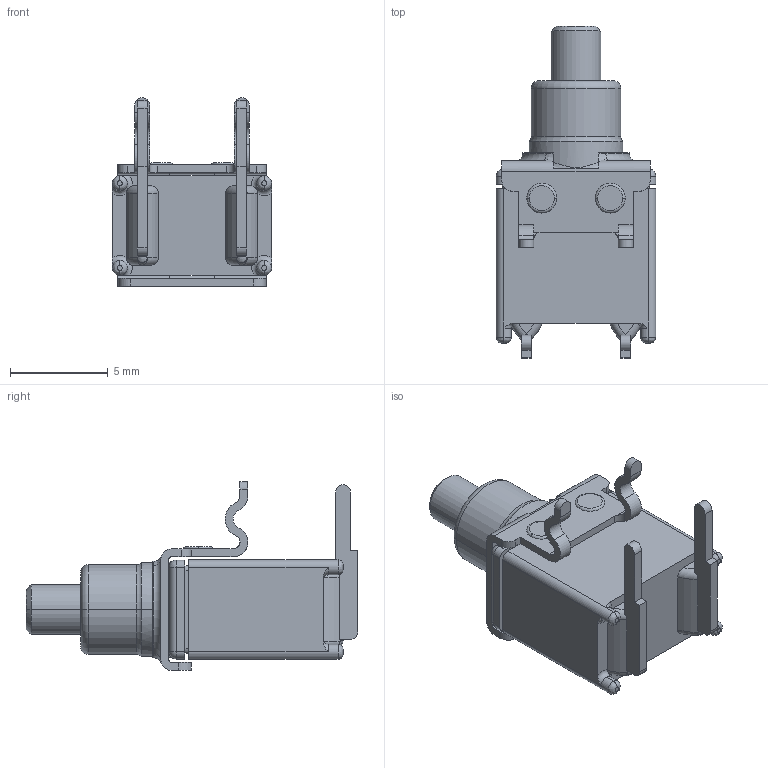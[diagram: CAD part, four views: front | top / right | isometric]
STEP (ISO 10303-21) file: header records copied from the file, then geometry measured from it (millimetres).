
FILE_DESCRIPTION((''),'2;1');
FILE_NAME('EP11S1D1A_SW0001_PRT','2011-10-18T',('cbachill'),(''),'PRO/ENGINEER BY PARAMETRIC TECHNOLOGY CORPORATION, 2010480','PRO/ENGINEER BY PARAMETRIC TECHNOLOGY CORPORATION, 2010480','');
FILE_SCHEMA(('AUTOMOTIVE_DESIGN_CC2 { 1 2 10303 214 -1 1 5 2 }'));
Length unit declared in the file: inch
Products named in the file (1): EP11S1D1A_SW0001_PRT
Bounding box: 8.13 x 16.94 x 9.63 mm (x, y, z)
Volume: 425.2 mm3; surface area: 866.2 mm2
Topology: 2 solids, 2 shells, 311 faces, 820 edges, 520 vertices
Faces by surface type: plane 140, cylinder 111, torus 22, bspline 20, sphere 16, cone 2
Entity records: 10760 total; most frequent: CARTESIAN_POINT 3083, ORIENTED_EDGE 1640, DIRECTION 1576, EDGE_CURVE 820, AXIS2_PLACEMENT_3D 580, VERTEX_POINT 520, VECTOR 416, LINE 416
